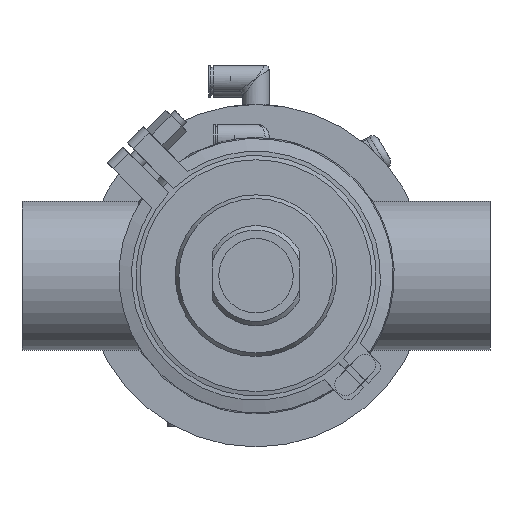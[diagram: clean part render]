
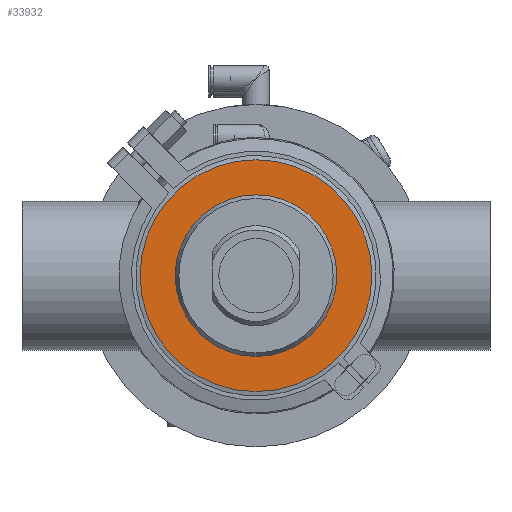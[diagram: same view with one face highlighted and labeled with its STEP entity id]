
A CAD part, front view. The second image highlights one B-rep face of the part: STEP entity #33932.
In plain terms, the highlighted planar face has unit normal (0, -1, 0).
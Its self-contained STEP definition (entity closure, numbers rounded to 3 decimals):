
#874 = AXIS2_PLACEMENT_3D ( 'NONE', #13553, #51406, #18084 ) ;
#1428 = VERTEX_POINT ( 'NONE', #21036 ) ;
#3983 = FACE_BOUND ( 'NONE', #15084, .T. ) ;
#5899 = CARTESIAN_POINT ( 'NONE',  ( 0., -13., 38. ) ) ;
#7414 = EDGE_CURVE ( 'NONE', #44688, #44688, #59884, .T. ) ;
#8147 = PLANE ( 'NONE',  #54971 ) ;
#13553 = CARTESIAN_POINT ( 'NONE',  ( 0., -13., 0. ) ) ;
#15084 = EDGE_LOOP ( 'NONE', ( #45093 ) ) ;
#18084 = DIRECTION ( 'NONE',  ( 0., 0., 1. ) ) ;
#21036 = CARTESIAN_POINT ( 'NONE',  ( 0., -13., 54.5 ) ) ;
#22696 = EDGE_LOOP ( 'NONE', ( #24747 ) ) ;
#23227 = DIRECTION ( 'NONE',  ( 0., -1., 0. ) ) ;
#24747 = ORIENTED_EDGE ( 'NONE', *, *, #36639, .F. ) ;
#28336 = CARTESIAN_POINT ( 'NONE',  ( -54.5, -13., 0. ) ) ;
#28422 = DIRECTION ( 'NONE',  ( 0., 0., 1. ) ) ;
#29550 = CIRCLE ( 'NONE', #874, 54.5 ) ;
#33932 = ADVANCED_FACE ( 'NONE', ( #3983, #43075 ), #8147, .T. ) ;
#36639 = EDGE_CURVE ( 'NONE', #1428, #1428, #29550, .T. ) ;
#43075 = FACE_OUTER_BOUND ( 'NONE', #22696, .T. ) ;
#44688 = VERTEX_POINT ( 'NONE', #5899 ) ;
#45093 = ORIENTED_EDGE ( 'NONE', *, *, #7414, .T. ) ;
#47628 = CARTESIAN_POINT ( 'NONE',  ( 0., -13., 0. ) ) ;
#51406 = DIRECTION ( 'NONE',  ( 0., 1., 0. ) ) ;
#52729 = AXIS2_PLACEMENT_3D ( 'NONE', #47628, #56926, #28422 ) ;
#54971 = AXIS2_PLACEMENT_3D ( 'NONE', #28336, #23227, #57471 ) ;
#56926 = DIRECTION ( 'NONE',  ( 0., 1., 0. ) ) ;
#57471 = DIRECTION ( 'NONE',  ( 0., 0., -1. ) ) ;
#59884 = CIRCLE ( 'NONE', #52729, 38. ) ;
